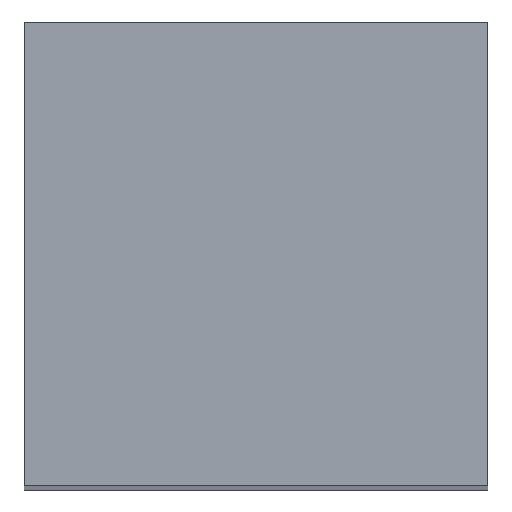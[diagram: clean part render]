
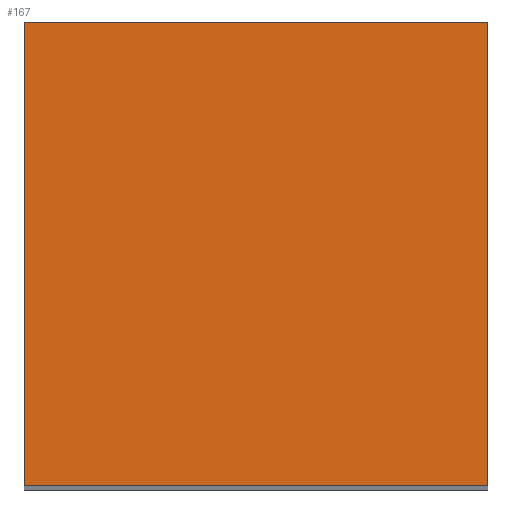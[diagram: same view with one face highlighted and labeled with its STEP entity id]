
A CAD part, top view. The second image highlights one B-rep face of the part: STEP entity #167.
In plain terms, the highlighted planar face has unit normal (0, 0, 1).
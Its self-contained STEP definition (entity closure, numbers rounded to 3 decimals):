
#17 = CARTESIAN_POINT ( 'NONE',  ( 0., 0., 500. ) ) ;
#19 = DIRECTION ( 'NONE',  ( 1., 0., 0. ) ) ;
#27 = ORIENTED_EDGE ( 'NONE', *, *, #156, .T. ) ;
#28 = AXIS2_PLACEMENT_3D ( 'NONE', #148, #215, #146 ) ;
#32 = CARTESIAN_POINT ( 'NONE',  ( 0., 0., 500. ) ) ;
#34 = CARTESIAN_POINT ( 'NONE',  ( 0., 0., 500. ) ) ;
#41 = EDGE_CURVE ( 'NONE', #86, #58, #92, .T. ) ;
#58 = VERTEX_POINT ( 'NONE', #102 ) ;
#76 = ORIENTED_EDGE ( 'NONE', *, *, #41, .T. ) ;
#86 = VERTEX_POINT ( 'NONE', #211 ) ;
#90 = VECTOR ( 'NONE', #107, 1000. ) ;
#92 = LINE ( 'NONE', #135, #221 ) ;
#99 = CARTESIAN_POINT ( 'NONE',  ( 100., 0., 500. ) ) ;
#102 = CARTESIAN_POINT ( 'NONE',  ( 0., 100., 500. ) ) ;
#105 = VERTEX_POINT ( 'NONE', #99 ) ;
#107 = DIRECTION ( 'NONE',  ( 0., -1., 0. ) ) ;
#115 = DIRECTION ( 'NONE',  ( -1., 0., 0. ) ) ;
#123 = EDGE_LOOP ( 'NONE', ( #141, #27, #222, #76 ) ) ;
#134 = EDGE_CURVE ( 'NONE', #105, #86, #164, .T. ) ;
#135 = CARTESIAN_POINT ( 'NONE',  ( 0., 100., 500. ) ) ;
#141 = ORIENTED_EDGE ( 'NONE', *, *, #181, .T. ) ;
#142 = PLANE ( 'NONE',  #28 ) ;
#146 = DIRECTION ( 'NONE',  ( -1., 0., 0. ) ) ;
#148 = CARTESIAN_POINT ( 'NONE',  ( 0., 100., 500. ) ) ;
#156 = EDGE_CURVE ( 'NONE', #209, #105, #198, .T. ) ;
#164 = LINE ( 'NONE', #233, #175 ) ;
#167 = ADVANCED_FACE ( 'NONE', ( #225 ), #142, .F. ) ;
#175 = VECTOR ( 'NONE', #231, 1000. ) ;
#181 = EDGE_CURVE ( 'NONE', #58, #209, #189, .T. ) ;
#189 = LINE ( 'NONE', #32, #90 ) ;
#193 = VECTOR ( 'NONE', #19, 1000. ) ;
#198 = LINE ( 'NONE', #17, #193 ) ;
#209 = VERTEX_POINT ( 'NONE', #34 ) ;
#211 = CARTESIAN_POINT ( 'NONE',  ( 100., 100., 500. ) ) ;
#215 = DIRECTION ( 'NONE',  ( 0., 0., -1. ) ) ;
#221 = VECTOR ( 'NONE', #115, 1000. ) ;
#222 = ORIENTED_EDGE ( 'NONE', *, *, #134, .T. ) ;
#225 = FACE_OUTER_BOUND ( 'NONE', #123, .T. ) ;
#231 = DIRECTION ( 'NONE',  ( 0., 1., 0. ) ) ;
#233 = CARTESIAN_POINT ( 'NONE',  ( 100., 0., 500. ) ) ;
